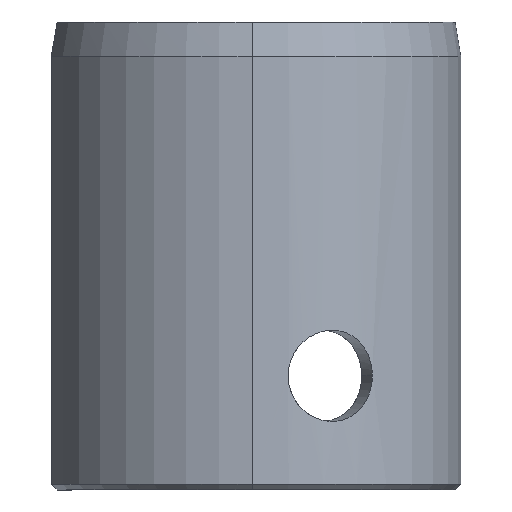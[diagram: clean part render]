
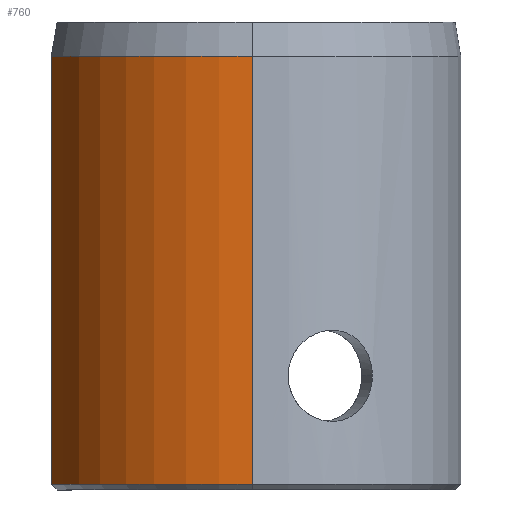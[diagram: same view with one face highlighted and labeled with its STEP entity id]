
A CAD part, left-side view. The second image highlights one B-rep face of the part: STEP entity #760.
In plain terms, the highlighted cylindrical face has radius 18.256 mm (diameter 36.512 mm), a partial arc.
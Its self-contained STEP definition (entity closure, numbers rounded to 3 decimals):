
#101 = VECTOR ( 'NONE', #406, 1000. ) ;
#103 = CARTESIAN_POINT ( 'NONE',  ( -4.762, 17.624, 17.5 ) ) ;
#131 = FACE_OUTER_BOUND ( 'NONE', #976, .T. ) ;
#138 = VERTEX_POINT ( 'NONE', #1011 ) ;
#214 = DIRECTION ( 'NONE',  ( 0., 0., 1. ) ) ;
#224 = LINE ( 'NONE', #943, #638 ) ;
#286 = DIRECTION ( 'NONE',  ( 0., 0., -1. ) ) ;
#299 = ORIENTED_EDGE ( 'NONE', *, *, #717, .T. ) ;
#311 = CARTESIAN_POINT ( 'NONE',  ( 0., 0., 20.5 ) ) ;
#386 = CYLINDRICAL_SURFACE ( 'NONE', #545, 18.256 ) ;
#402 = DIRECTION ( 'NONE',  ( 0., 0., -1. ) ) ;
#406 = DIRECTION ( 'NONE',  ( 0., 0., -1. ) ) ;
#442 = DIRECTION ( 'NONE',  ( 0., 0., -1. ) ) ;
#526 = VERTEX_POINT ( 'NONE', #1094 ) ;
#527 = VERTEX_POINT ( 'NONE', #103 ) ;
#545 = AXIS2_PLACEMENT_3D ( 'NONE', #311, #402, #817 ) ;
#550 = LINE ( 'NONE', #907, #101 ) ;
#573 = CIRCLE ( 'NONE', #877, 18.256 ) ;
#620 = ORIENTED_EDGE ( 'NONE', *, *, #798, .F. ) ;
#638 = VECTOR ( 'NONE', #442, 1000. ) ;
#710 = CARTESIAN_POINT ( 'NONE',  ( 0., 0., -20. ) ) ;
#717 = EDGE_CURVE ( 'NONE', #138, #526, #573, .T. ) ;
#725 = CARTESIAN_POINT ( 'NONE',  ( -18.256, 0., 17.5 ) ) ;
#760 = ADVANCED_FACE ( 'NONE', ( #131 ), #386, .T. ) ;
#770 = CIRCLE ( 'NONE', #890, 18.256 ) ;
#785 = DIRECTION ( 'NONE',  ( 1., 0., 0. ) ) ;
#792 = VERTEX_POINT ( 'NONE', #725 ) ;
#798 = EDGE_CURVE ( 'NONE', #792, #526, #550, .T. ) ;
#803 = DIRECTION ( 'NONE',  ( 1., 0., 0. ) ) ;
#817 = DIRECTION ( 'NONE',  ( -1., 0., 0. ) ) ;
#832 = ORIENTED_EDGE ( 'NONE', *, *, #930, .T. ) ;
#877 = AXIS2_PLACEMENT_3D ( 'NONE', #710, #214, #803 ) ;
#882 = CARTESIAN_POINT ( 'NONE',  ( 0., 0., 17.5 ) ) ;
#890 = AXIS2_PLACEMENT_3D ( 'NONE', #882, #286, #785 ) ;
#907 = CARTESIAN_POINT ( 'NONE',  ( -18.256, 0., 20.5 ) ) ;
#930 = EDGE_CURVE ( 'NONE', #792, #527, #770, .T. ) ;
#942 = ORIENTED_EDGE ( 'NONE', *, *, #1026, .T. ) ;
#943 = CARTESIAN_POINT ( 'NONE',  ( -4.762, 17.624, 20.5 ) ) ;
#976 = EDGE_LOOP ( 'NONE', ( #620, #832, #942, #299 ) ) ;
#1011 = CARTESIAN_POINT ( 'NONE',  ( -4.762, 17.624, -20. ) ) ;
#1026 = EDGE_CURVE ( 'NONE', #527, #138, #224, .T. ) ;
#1094 = CARTESIAN_POINT ( 'NONE',  ( -18.256, 0., -20. ) ) ;
